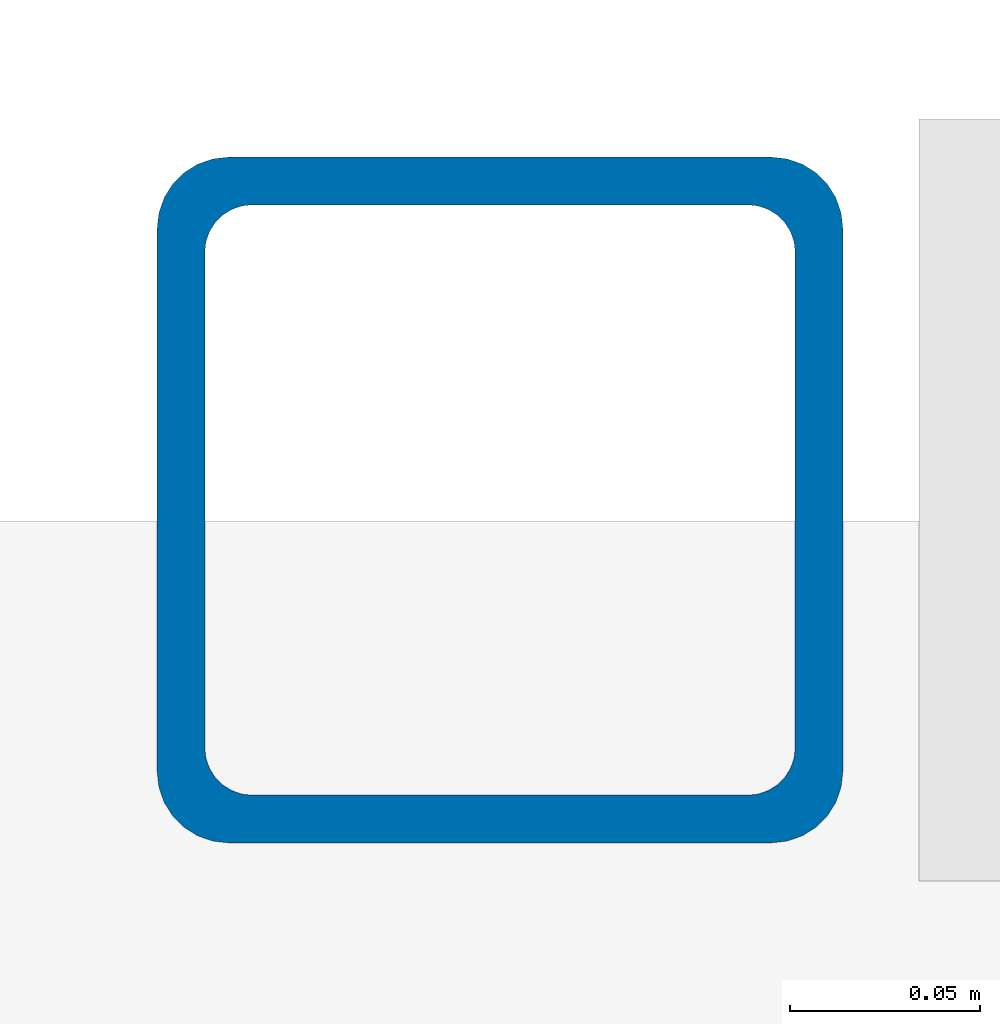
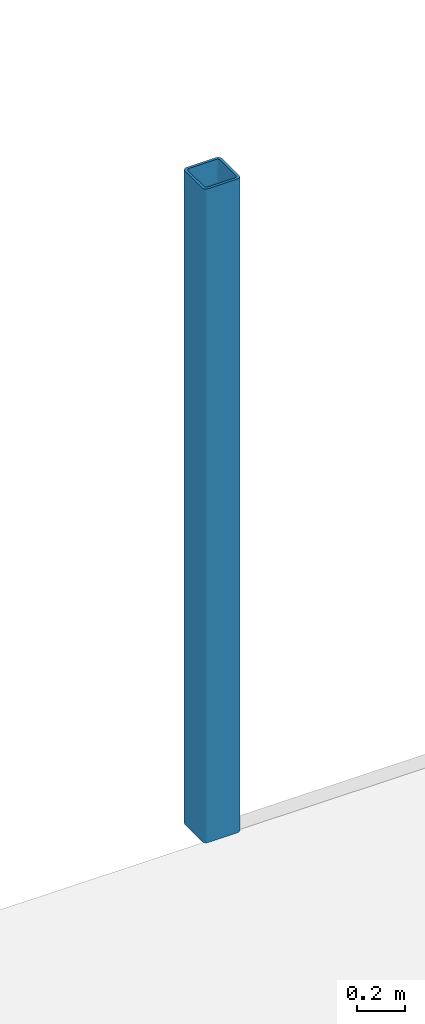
# One storey, part 8 of 68: 1 column.
"""IFC2X3 building model written with IfcOpenShell, lengths in millimetres."""

import ifcopenshell
import ifcopenshell.guid

model = None  # the IFC model being written
_history = None  # IfcOwnerHistory: only IFC2X3 demands one
_inside = {}  # id of a spatial element -> (the spatial element, [elements in it])
_under = {}  # id of a project, library or spatial element -> (it, [spatial elements below it])
_declared = {}  # id of a project -> (the project, [libraries it declares])
_typed = {}  # id of a type object -> (the type object, [elements of that type])
_made_of = {}  # id of a material, layer set ... -> (it, [elements and type objects made of it])


def new_model(schema):
    """Start an empty IFC model of exactly this schema.

    Asked for "IFC4X3", IfcOpenShell would pick the latest addendum, in which some entities
    have other attributes; the version numbers below select the first issue.
    IFC2X3 requires an IfcOwnerHistory on every rooted entity: one is made here for all.
    """
    global model, _history
    if schema == "IFC4X3":
        model = ifcopenshell.file(schema_version=(4, 3, 0, 0))
    else:
        model = ifcopenshell.file(schema=schema)
    _inside.clear()
    _under.clear()
    _declared.clear()
    _typed.clear()
    _made_of.clear()
    _history = None
    if model.schema == "IFC2X3":
        org = make("IfcOrganization", Name="unknown")
        user = make(
            "IfcPersonAndOrganization",
            ThePerson=make("IfcPerson", FamilyName="unknown"),
            TheOrganization=org,
        )
        app = make(
            "IfcApplication",
            ApplicationDeveloper=org,
            Version="unknown",
            ApplicationFullName="unknown",
            ApplicationIdentifier="unknown",
        )
        _history = make(
            "IfcOwnerHistory",
            OwningUser=user,
            OwningApplication=app,
            ChangeAction="ADDED",
            CreationDate=0,
        )
    return model


def make(cls, **values):
    """One entity of the class cls with the attributes given. An attribute that is None is left unset."""
    return model.create_entity(
        cls, **{name: value for name, value in values.items() if value is not None}
    )


def entity(cls, *values):
    """Any entity or typed value of the class cls, its attributes in the order of the schema. None: left unset."""
    e = model.create_entity(cls)
    for i, value in enumerate(values):
        if value is not None:
            e[i] = value
    return e


def rooted(cls, **values):
    """An entity with a GlobalId (a new one), such as an element, a storey or a relation."""
    return make(cls, GlobalId=ifcopenshell.guid.new(), OwnerHistory=_history, **values)


def si_unit(unit_type, name, prefix=None):
    """IfcSIUnit, for example si_unit("LENGTHUNIT", "METRE", prefix="MILLI")."""
    return make("IfcSIUnit", UnitType=unit_type, Prefix=prefix, Name=name)


def converted_unit(unit_type, name, factor, base, dimensions=None, offset=None):
    """IfcConversionBasedUnit, such as the inch: factor (a typed value) times the base unit."""
    return make(
        "IfcConversionBasedUnit"
        if offset is None
        else "IfcConversionBasedUnitWithOffset",
        ConversionOffset=offset,
        Dimensions=None
        if dimensions is None
        else entity("IfcDimensionalExponents", *dimensions),
        UnitType=unit_type,
        Name=name,
        ConversionFactor=make(
            "IfcMeasureWithUnit", ValueComponent=factor, UnitComponent=base
        ),
    )


def derived_unit(unit_type, elements):
    """IfcDerivedUnit: a product of units, each with its exponent."""
    return make(
        "IfcDerivedUnit",
        Elements=[
            make("IfcDerivedUnitElement", Unit=unit, Exponent=power)
            for unit, power in elements
        ],
        UnitType=unit_type,
    )


def assignment(units):
    """IfcUnitAssignment: the units of a project."""
    return None if units is None else make("IfcUnitAssignment", Units=units)


def point(xyz):
    """IfcCartesianPoint."""
    return None if xyz is None else make("IfcCartesianPoint", Coordinates=xyz)


def direction(xyz):
    """IfcDirection."""
    return None if xyz is None else make("IfcDirection", DirectionRatios=xyz)


def frame(location, z_axis=None, x_axis=None):
    """IfcAxis2Placement3D, a coordinate frame: its origin and axes. An axis left out is left unset."""
    return make(
        "IfcAxis2Placement3D",
        Location=point(location),
        Axis=direction(z_axis),
        RefDirection=direction(x_axis),
    )


def frame_2d(location, x_axis=None):
    """IfcAxis2Placement2D, a coordinate frame in the plane: its origin and x axis."""
    return make(
        "IfcAxis2Placement2D", Location=point(location), RefDirection=direction(x_axis)
    )


def origin():
    """The frame at (0, 0, 0) with its axes left unset."""
    return frame((0.0, 0.0, 0.0))


def place(relative_to, where):
    """IfcLocalPlacement: puts the frame where relative to a parent placement (None: the world)."""
    return make(
        "IfcLocalPlacement", PlacementRelTo=relative_to, RelativePlacement=where
    )


def context(
    kind, dimensions, precision=None, world=None, true_north=None, identifier=None
):
    """IfcGeometricRepresentationContext, for example the 3D "Model" context."""
    return make(
        "IfcGeometricRepresentationContext",
        ContextIdentifier=identifier,
        ContextType=kind,
        CoordinateSpaceDimension=dimensions,
        Precision=precision,
        WorldCoordinateSystem=world,
        TrueNorth=true_north,
    )


def subcontext(parent, identifier, kind, view, scale=None):
    """IfcGeometricRepresentationSubContext, for example "Body" below "Model"."""
    return make(
        "IfcGeometricRepresentationSubContext",
        ContextIdentifier=identifier,
        ContextType=kind,
        ParentContext=parent,
        TargetScale=scale,
        TargetView=view,
    )


def project(units=None, contexts=None):
    """IfcProject with its units and contexts."""
    return rooted(
        "IfcProject",
        Name="project",
        RepresentationContexts=contexts,
        UnitsInContext=assignment(units),
    )


def spatial(cls, under=None, at=None, **own):
    """A site, building, storey or space (cls), placed at a placement, below another one or the project."""
    s = rooted(cls, ObjectPlacement=at, **own)
    if under is not None:
        _under.setdefault(under.id(), (under, []))[1].append(s)
    return s


def polyline(points):
    """IfcPolyline through the points."""
    return make("IfcPolyline", Points=[point(p) for p in points])


def circle_curve(where, radius):
    """IfcCircle in the frame where."""
    return make("IfcCircle", Position=where, Radius=radius)


def parameter(value):
    """IfcParameterValue: where a trimmed curve begins or ends, as a parameter of its basis curve."""
    return model.create_entity("IfcParameterValue", value)


def trimmed(basis, trim1, trim2, sense, master):
    """IfcTrimmedCurve: the piece of a basis curve between two trims."""
    return make(
        "IfcTrimmedCurve",
        BasisCurve=basis,
        Trim1=trim1,
        Trim2=trim2,
        SenseAgreement=sense,
        MasterRepresentation=master,
    )


def segment(curve, same_sense, transition):
    """IfcCompositeCurveSegment."""
    return make(
        "IfcCompositeCurveSegment",
        Transition=transition,
        SameSense=same_sense,
        ParentCurve=curve,
    )


def composite_curve(segments, self_intersect=None):
    """IfcCompositeCurve: segments joined end to end."""
    return make("IfcCompositeCurve", Segments=segments, SelfIntersect=self_intersect)


def outline(outer, holes=None, kind="AREA"):
    """IfcArbitraryClosedProfileDef: a profile drawn as a closed curve; with holes, ...WithVoids."""
    if holes is None:
        return make("IfcArbitraryClosedProfileDef", ProfileType=kind, OuterCurve=outer)
    return make(
        "IfcArbitraryProfileDefWithVoids",
        ProfileType=kind,
        OuterCurve=outer,
        InnerCurves=holes,
    )


def extrude(swept, where, along, depth):
    """IfcExtrudedAreaSolid: the profile swept, set in the frame where, extruded along a direction by depth."""
    return make(
        "IfcExtrudedAreaSolid",
        SweptArea=swept,
        Position=where,
        ExtrudedDirection=direction(along),
        Depth=depth,
    )


def shape(context_of_items, identifier, shape_type, items):
    """IfcShapeRepresentation: the items that make up one representation, for example the "Body"."""
    return make(
        "IfcShapeRepresentation",
        ContextOfItems=context_of_items,
        RepresentationIdentifier=identifier,
        RepresentationType=shape_type,
        Items=items,
    )


def source(mapping_origin, context_of_items, identifier, shape_type, items):
    """IfcRepresentationMap: a shape defined once, which mapped items show again and again."""
    return make(
        "IfcRepresentationMap",
        MappingOrigin=mapping_origin,
        MappedRepresentation=shape(context_of_items, identifier, shape_type, items),
    )


def transform(
    local_origin,
    x_axis=None,
    y_axis=None,
    z_axis=None,
    scale=None,
    scale2=None,
    scale3=None,
    uniform=True,
):
    """IfcCartesianTransformationOperator3D, or its non-uniform kind. x_axis, y_axis, z_axis: its Axis1, 2, 3."""
    if uniform:
        return make(
            "IfcCartesianTransformationOperator3D",
            Axis1=direction(x_axis),
            Axis2=direction(y_axis),
            LocalOrigin=point(local_origin),
            Scale=scale,
            Axis3=direction(z_axis),
        )
    return make(
        "IfcCartesianTransformationOperator3DnonUniform",
        Axis1=direction(x_axis),
        Axis2=direction(y_axis),
        LocalOrigin=point(local_origin),
        Scale=scale,
        Axis3=direction(z_axis),
        Scale2=scale2,
        Scale3=scale3,
    )


def mapped(mapping_source, mapping_target):
    """IfcMappedItem: shows the shape of a source again, moved by a transform."""
    return make(
        "IfcMappedItem", MappingSource=mapping_source, MappingTarget=mapping_target
    )


def material(Name=None, Category=None):
    """IfcMaterial."""
    return make("IfcMaterial", Name=Name, Category=Category)


def made_of(thing, what):
    """Note that an element or type object is made of a material, layer set ...; save() writes the relation."""
    if what is not None:
        _made_of.setdefault(what.id(), (what, []))[1].append(thing)
    return thing


def type_object(cls, material=None, **own):
    """A type object (cls), such as IfcWallType, which elements share."""
    return made_of(rooted(cls, **own), material)


def type_shapes(of_type, sources):
    """Give a type object the sources (RepresentationMaps) that its elements show as mapped items."""
    of_type.RepresentationMaps = sources


def element(
    cls,
    number,
    at=None,
    inside=None,
    cuts=None,
    type_object=None,
    material=None,
    context=None,
    identifier="Body",
    shape_type=None,
    held_by="IfcProductDefinitionShape",
    body=None,
    shapes=None,
    **own,
):
    """One element of the class cls, such as IfcWall. Its Tag is "e" and its number.

    at: its placement. inside: the storey or other place that contains it. cuts: it is an
    opening in that element (IfcRelVoidsElement). A single representation is given by context,
    identifier, shape_type and body (its items); several are given by shapes. held_by: the class
    of the entity that holds the representations. save() writes the other relations.
    """
    e = rooted(cls, Tag="e%d" % number, ObjectPlacement=at, **own)
    if body is not None:
        shapes = [shape(context, identifier, shape_type, body)]
    if shapes is not None:
        e.Representation = make(held_by, Representations=shapes)
    if inside is not None:
        _inside.setdefault(inside.id(), (inside, []))[1].append(e)
    if cuts is not None:
        rooted(
            "IfcRelVoidsElement", RelatingBuildingElement=cuts, RelatedOpeningElement=e
        )
    if type_object is not None:
        _typed.setdefault(type_object.id(), (type_object, []))[1].append(e)
    return made_of(e, material)


def aggregate(whole, parts):
    """IfcRelAggregates: a whole, such as a stair, and the parts it consists of."""
    return rooted("IfcRelAggregates", RelatingObject=whole, RelatedObjects=parts)


def save(model, path):
    """Write the relations noted so far, then the file.

    IfcRelAggregates (storeys below a building ...), IfcRelContainedInSpatialStructure (elements
    in a storey), IfcRelDefinesByType, IfcRelAssociatesMaterial and IfcRelDeclares: one each for
    every whole, place, type object, material and project.
    """
    for whole, parts in _under.values():
        aggregate(whole, parts)
    for where, things in _inside.values():
        rooted(
            "IfcRelContainedInSpatialStructure",
            RelatedElements=things,
            RelatingStructure=where,
        )
    for kind, things in _typed.values():
        rooted("IfcRelDefinesByType", RelatedObjects=things, RelatingType=kind)
    for what, things in _made_of.values():
        rooted("IfcRelAssociatesMaterial", RelatedObjects=things, RelatingMaterial=what)
    for by, libraries in _declared.values():
        rooted("IfcRelDeclares", RelatingContext=by, RelatedDefinitions=libraries)
    model.write(path)


model = new_model("IFC2X3")

# Units and contexts
model_context = context("Model", 3, precision=0.01, world=origin(), true_north=direction((6.12303176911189e-17, 1.0)))
body_context = subcontext(model_context, "Body", "Model", "MODEL_VIEW")
ifc_project = project(units=[si_unit("LENGTHUNIT", "METRE", prefix="MILLI"), si_unit("AREAUNIT", "SQUARE_METRE", prefix="MILLI"), si_unit("VOLUMEUNIT", "CUBIC_METRE"), converted_unit("PLANEANGLEUNIT", "DEGREE", entity("IfcRatioMeasure", 0.0174532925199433), si_unit("PLANEANGLEUNIT", "RADIAN"), dimensions=[0, 0, 0, 0, 0, 0, 0]), si_unit("MASSUNIT", "GRAM", prefix="KILO"), derived_unit("MASSDENSITYUNIT", [(si_unit("MASSUNIT", "GRAM", prefix="KILO"), 1), (si_unit("LENGTHUNIT", "METRE"), -3)]), derived_unit("MOMENTOFINERTIAUNIT", [(si_unit("LENGTHUNIT", "METRE"), 4)]), si_unit("TIMEUNIT", "SECOND"), si_unit("FREQUENCYUNIT", "HERTZ"), si_unit("THERMODYNAMICTEMPERATUREUNIT", "DEGREE_CELSIUS"), derived_unit("THERMALTRANSMITTANCEUNIT", [(si_unit("MASSUNIT", "GRAM", prefix="KILO"), 1), (si_unit("THERMODYNAMICTEMPERATUREUNIT", "KELVIN"), -1), (si_unit("TIMEUNIT", "SECOND"), -3)]), derived_unit("VOLUMETRICFLOWRATEUNIT", [(si_unit("LENGTHUNIT", "METRE"), 3), (si_unit("TIMEUNIT", "SECOND"), -1)]), si_unit("ELECTRICCURRENTUNIT", "AMPERE"), si_unit("ELECTRICVOLTAGEUNIT", "VOLT"), si_unit("POWERUNIT", "WATT"), si_unit("FORCEUNIT", "NEWTON", prefix="KILO"), si_unit("ILLUMINANCEUNIT", "LUX"), si_unit("LUMINOUSFLUXUNIT", "LUMEN"), si_unit("LUMINOUSINTENSITYUNIT", "CANDELA"), derived_unit("USERDEFINED", [(si_unit("MASSUNIT", "GRAM", prefix="KILO"), -1), (si_unit("LENGTHUNIT", "METRE"), -2), (si_unit("TIMEUNIT", "SECOND"), 3), (si_unit("LUMINOUSFLUXUNIT", "LUMEN"), 1)]), derived_unit("LINEARVELOCITYUNIT", [(si_unit("LENGTHUNIT", "METRE"), 1), (si_unit("TIMEUNIT", "SECOND"), -1)]), si_unit("PRESSUREUNIT", "PASCAL"), derived_unit("USERDEFINED", [(si_unit("LENGTHUNIT", "METRE"), -2), (si_unit("MASSUNIT", "GRAM", prefix="KILO"), 1), (si_unit("TIMEUNIT", "SECOND"), -2)]), derived_unit("LINEARFORCEUNIT", [(si_unit("MASSUNIT", "GRAM", prefix="KILO"), 1), (si_unit("LENGTHUNIT", "METRE"), 1), (si_unit("TIMEUNIT", "SECOND"), -2), (si_unit("LENGTHUNIT", "METRE"), -1)]), derived_unit("PLANARFORCEUNIT", [(si_unit("MASSUNIT", "GRAM", prefix="KILO"), 1), (si_unit("LENGTHUNIT", "METRE"), 1), (si_unit("TIMEUNIT", "SECOND"), -2), (si_unit("LENGTHUNIT", "METRE"), -2)])], contexts=[model_context])

# Site, building, storey
site_placement = place(None, origin())
site = spatial("IfcSite", under=ifc_project, at=site_placement, Name="Theater aan de Parade", CompositionType="ELEMENT")
building_placement = place(site_placement, origin())
building = spatial("IfcBuilding", under=site, at=building_placement, Name="Theater aan de Parade", CompositionType="ELEMENT")
storey_placement = place(building_placement, frame((0.0, 0.0, 8750.0)))
storey = spatial("IfcBuildingStorey", under=building, at=storey_placement, Name="02 tweede verdieping", CompositionType="ELEMENT", Elevation=8750.0)

# Column
ifc_material = material(Name="00_PBT_MAT_staal_S355")
column_type = type_object("IfcColumnType", Name="28_PBT_SC_staal_koker:S355_K180x180x12.5", PredefinedType="COLUMN", material=ifc_material)
shared_shape = source(origin(), body_context, "Body", "SweptSolid", [
    extrude(outline(composite_curve([segment(trimmed(circle_curve(frame_2d((-71.2499999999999, -71.2500000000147), x_axis=(1.0, 0.0)), 18.75), [parameter(180.0)], [parameter(270.0)], True, "PARAMETER"), True, "CONTINUOUS"), segment(polyline([(-71.2500000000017, -90.0), (71.2499999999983, -90.0)]), True, "CONTINUOUS"), segment(trimmed(circle_curve(frame_2d((71.2500000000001, -71.2500000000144), x_axis=(1.0, 0.0)), 18.75), [parameter(270.0)], [parameter(5.08888749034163e-14)], True, "PARAMETER"), True, "CONTINUOUS"), segment(polyline([(90.0, -71.2500000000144), (90.0, 71.2499999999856)]), True, "CONTINUOUS"), segment(trimmed(circle_curve(frame_2d((71.2499999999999, 71.2499999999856), x_axis=(1.0, 0.0)), 18.75), [parameter(3.56222124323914e-13)], [parameter(90.0000000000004)], True, "PARAMETER"), True, "CONTINUOUS"), segment(polyline([(71.2499999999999, 90.0), (-71.2500000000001, 90.0)]), True, "CONTINUOUS"), segment(trimmed(circle_curve(frame_2d((-71.2500000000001, 71.2499999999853), x_axis=(1.0, 0.0)), 18.75), [parameter(90.0)], [parameter(180.0)], True, "PARAMETER"), True, "CONTINUOUS"), segment(polyline([(-90.0, 71.2499999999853), (-90.0, -71.2500000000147)]), True, "CONTINUOUS")], self_intersect=False), holes=[composite_curve([segment(trimmed(circle_curve(frame_2d((65.0, 65.0), x_axis=(1.0, 0.0)), 12.5), [parameter(0.0)], [parameter(90.0000000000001)], True, "PARAMETER"), False, "CONTINUOUS"), segment(polyline([(77.4999999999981, 65.0), (77.4999999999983, -65.0)]), True, "CONTINUOUS"), segment(trimmed(circle_curve(frame_2d((65.0, -65.0), x_axis=(1.0, 0.0)), 12.5), [parameter(270.0)], [parameter(360.0)], True, "PARAMETER"), False, "CONTINUOUS"), segment(polyline([(65.0, -77.500000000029), (-65.0, -77.5000000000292)]), True, "CONTINUOUS"), segment(trimmed(circle_curve(frame_2d((-65.0, -65.0), x_axis=(1.0, 0.0)), 12.5), [parameter(180.0)], [parameter(270.0)], True, "PARAMETER"), False, "CONTINUOUS"), segment(polyline([(-77.5000000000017, -65.0), (-77.5000000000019, 65.0)]), True, "CONTINUOUS"), segment(trimmed(circle_curve(frame_2d((-65.0, 65.0), x_axis=(1.0, 0.0)), 12.5), [parameter(89.9999999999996)], [parameter(180.0)], True, "PARAMETER"), False, "CONTINUOUS"), segment(polyline([(-65.0, 77.4999999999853), (65.0, 77.499999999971)]), True, "CONTINUOUS")], self_intersect=False)]), frame((78773.8589693, 16197.0, 8730.0), z_axis=(0.0, 0.0, 1.0), x_axis=(0.0, -1.0, 0.0)), (0.0, 0.0, 1.0), 3330.0),
])
type_shapes(column_type, [shared_shape])
column_placement = place(storey_placement, frame((0.0, 0.0, -8750.0)))
element("IfcColumn", 1, at=column_placement, inside=storey, type_object=column_type, material=ifc_material, Name="28_PBT_SC_staal_koker:S355_K180x180x12.5", ObjectType="28_PBT_SC_staal_koker:S355_K180x180x12.5", context=body_context, shape_type="MappedRepresentation", body=[
    mapped(shared_shape, transform((0.0, 0.0, 0.0), scale=1.0)),
])

save(model, "model.ifc")
